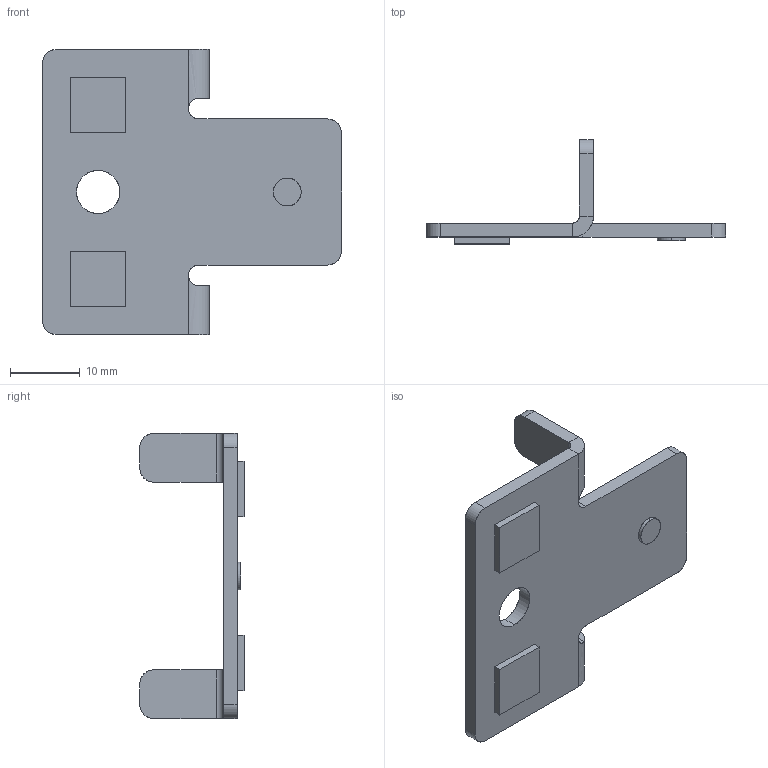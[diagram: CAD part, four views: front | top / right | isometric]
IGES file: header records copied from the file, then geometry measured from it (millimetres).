
Start section: SolidWorks IGES file using analytic representation for surfaces
Global section: file name: F:\GVD ÝÞ TAKÝBÝ\sac kalýplarý\sac kalýp parçalarý\öncelikli yapýlacak\kesinleþeler\kontaktör-klemens ray mont.aprt.IGS; native system: SolidWorks 2010; preprocessor: SolidWorks 2010; author: Tamer; date: 110118.105905; units: millimetre
Bounding box: 43 x 15 x 41 mm (x, y, z)
Surface area: 3581.5 mm2 (no closed solid volume)
Topology: 0 solids, 0 shells, 66 faces, 726 edges, 726 vertices
Faces by surface type: bspline 44, revolution 22
